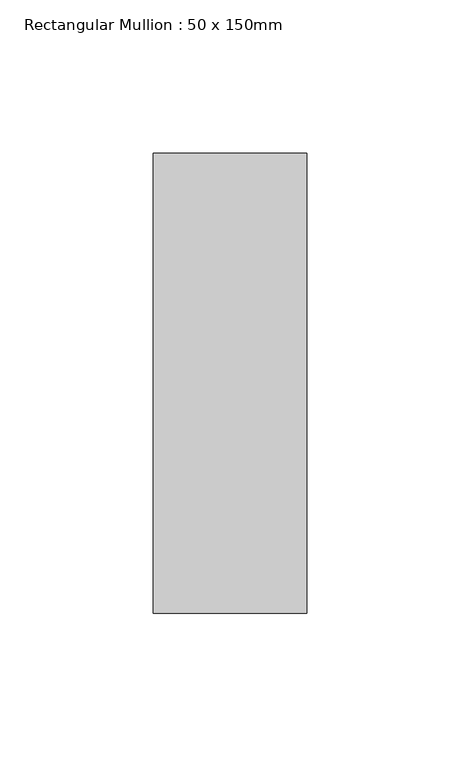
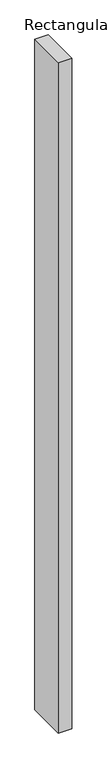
"""IFC4 building model written with IfcOpenShell, lengths in millimetres: member geometry, Rectangular Mullion : 50 x 150mm."""

import ifcopenshell
import ifcopenshell.guid

model = None  # the IFC model being written
_history = None  # IfcOwnerHistory: only IFC2X3 demands one
_inside = {}  # id of a spatial element -> (the spatial element, [elements in it])
_under = {}  # id of a project, library or spatial element -> (it, [spatial elements below it])
_declared = {}  # id of a project -> (the project, [libraries it declares])
_typed = {}  # id of a type object -> (the type object, [elements of that type])
_made_of = {}  # id of a material, layer set ... -> (it, [elements and type objects made of it])


def new_model(schema):
    """Start an empty IFC model of exactly this schema.

    Asked for "IFC4X3", IfcOpenShell would pick the latest addendum, in which some entities
    have other attributes; the version numbers below select the first issue.
    IFC2X3 requires an IfcOwnerHistory on every rooted entity: one is made here for all.
    """
    global model, _history
    if schema == "IFC4X3":
        model = ifcopenshell.file(schema_version=(4, 3, 0, 0))
    else:
        model = ifcopenshell.file(schema=schema)
    _inside.clear()
    _under.clear()
    _declared.clear()
    _typed.clear()
    _made_of.clear()
    _history = None
    if model.schema == "IFC2X3":
        org = make("IfcOrganization", Name="unknown")
        user = make(
            "IfcPersonAndOrganization",
            ThePerson=make("IfcPerson", FamilyName="unknown"),
            TheOrganization=org,
        )
        app = make(
            "IfcApplication",
            ApplicationDeveloper=org,
            Version="unknown",
            ApplicationFullName="unknown",
            ApplicationIdentifier="unknown",
        )
        _history = make(
            "IfcOwnerHistory",
            OwningUser=user,
            OwningApplication=app,
            ChangeAction="ADDED",
            CreationDate=0,
        )
    return model


def make(cls, **values):
    """One entity of the class cls with the attributes given. An attribute that is None is left unset."""
    return model.create_entity(
        cls, **{name: value for name, value in values.items() if value is not None}
    )


def rooted(cls, **values):
    """An entity with a GlobalId (a new one), such as an element, a storey or a relation."""
    return make(cls, GlobalId=ifcopenshell.guid.new(), OwnerHistory=_history, **values)


def si_unit(unit_type, name, prefix=None):
    """IfcSIUnit, for example si_unit("LENGTHUNIT", "METRE", prefix="MILLI")."""
    return make("IfcSIUnit", UnitType=unit_type, Prefix=prefix, Name=name)


def assignment(units):
    """IfcUnitAssignment: the units of a project."""
    return None if units is None else make("IfcUnitAssignment", Units=units)


def point(xyz):
    """IfcCartesianPoint."""
    return None if xyz is None else make("IfcCartesianPoint", Coordinates=xyz)


def direction(xyz):
    """IfcDirection."""
    return None if xyz is None else make("IfcDirection", DirectionRatios=xyz)


def frame(location, z_axis=None, x_axis=None):
    """IfcAxis2Placement3D, a coordinate frame: its origin and axes. An axis left out is left unset."""
    return make(
        "IfcAxis2Placement3D",
        Location=point(location),
        Axis=direction(z_axis),
        RefDirection=direction(x_axis),
    )


def origin():
    """The frame at (0, 0, 0) with its axes left unset."""
    return frame((0.0, 0.0, 0.0))


def place(relative_to, where):
    """IfcLocalPlacement: puts the frame where relative to a parent placement (None: the world)."""
    return make(
        "IfcLocalPlacement", PlacementRelTo=relative_to, RelativePlacement=where
    )


def context(
    kind, dimensions, precision=None, world=None, true_north=None, identifier=None
):
    """IfcGeometricRepresentationContext, for example the 3D "Model" context."""
    return make(
        "IfcGeometricRepresentationContext",
        ContextIdentifier=identifier,
        ContextType=kind,
        CoordinateSpaceDimension=dimensions,
        Precision=precision,
        WorldCoordinateSystem=world,
        TrueNorth=true_north,
    )


def project(units=None, contexts=None):
    """IfcProject with its units and contexts."""
    return rooted(
        "IfcProject",
        Name="project",
        RepresentationContexts=contexts,
        UnitsInContext=assignment(units),
    )


def spatial(cls, under=None, at=None, **own):
    """A site, building, storey or space (cls), placed at a placement, below another one or the project."""
    s = rooted(cls, ObjectPlacement=at, **own)
    if under is not None:
        _under.setdefault(under.id(), (under, []))[1].append(s)
    return s


def polyline(points):
    """IfcPolyline through the points."""
    return make("IfcPolyline", Points=[point(p) for p in points])


def outline(outer, holes=None, kind="AREA"):
    """IfcArbitraryClosedProfileDef: a profile drawn as a closed curve; with holes, ...WithVoids."""
    if holes is None:
        return make("IfcArbitraryClosedProfileDef", ProfileType=kind, OuterCurve=outer)
    return make(
        "IfcArbitraryProfileDefWithVoids",
        ProfileType=kind,
        OuterCurve=outer,
        InnerCurves=holes,
    )


def extrude(swept, where, along, depth):
    """IfcExtrudedAreaSolid: the profile swept, set in the frame where, extruded along a direction by depth."""
    return make(
        "IfcExtrudedAreaSolid",
        SweptArea=swept,
        Position=where,
        ExtrudedDirection=direction(along),
        Depth=depth,
    )


def shape(context_of_items, identifier, shape_type, items):
    """IfcShapeRepresentation: the items that make up one representation, for example the "Body"."""
    return make(
        "IfcShapeRepresentation",
        ContextOfItems=context_of_items,
        RepresentationIdentifier=identifier,
        RepresentationType=shape_type,
        Items=items,
    )


def source(mapping_origin, context_of_items, identifier, shape_type, items):
    """IfcRepresentationMap: a shape defined once, which mapped items show again and again."""
    return make(
        "IfcRepresentationMap",
        MappingOrigin=mapping_origin,
        MappedRepresentation=shape(context_of_items, identifier, shape_type, items),
    )


def transform(
    local_origin,
    x_axis=None,
    y_axis=None,
    z_axis=None,
    scale=None,
    scale2=None,
    scale3=None,
    uniform=True,
):
    """IfcCartesianTransformationOperator3D, or its non-uniform kind. x_axis, y_axis, z_axis: its Axis1, 2, 3."""
    if uniform:
        return make(
            "IfcCartesianTransformationOperator3D",
            Axis1=direction(x_axis),
            Axis2=direction(y_axis),
            LocalOrigin=point(local_origin),
            Scale=scale,
            Axis3=direction(z_axis),
        )
    return make(
        "IfcCartesianTransformationOperator3DnonUniform",
        Axis1=direction(x_axis),
        Axis2=direction(y_axis),
        LocalOrigin=point(local_origin),
        Scale=scale,
        Axis3=direction(z_axis),
        Scale2=scale2,
        Scale3=scale3,
    )


def mapped(mapping_source, mapping_target):
    """IfcMappedItem: shows the shape of a source again, moved by a transform."""
    return make(
        "IfcMappedItem", MappingSource=mapping_source, MappingTarget=mapping_target
    )


def made_of(thing, what):
    """Note that an element or type object is made of a material, layer set ...; save() writes the relation."""
    if what is not None:
        _made_of.setdefault(what.id(), (what, []))[1].append(thing)
    return thing


def element(
    cls,
    number,
    at=None,
    inside=None,
    cuts=None,
    type_object=None,
    material=None,
    context=None,
    identifier="Body",
    shape_type=None,
    held_by="IfcProductDefinitionShape",
    body=None,
    shapes=None,
    **own,
):
    """One element of the class cls, such as IfcWall. Its Tag is "e" and its number.

    at: its placement. inside: the storey or other place that contains it. cuts: it is an
    opening in that element (IfcRelVoidsElement). A single representation is given by context,
    identifier, shape_type and body (its items); several are given by shapes. held_by: the class
    of the entity that holds the representations. save() writes the other relations.
    """
    e = rooted(cls, Tag="e%d" % number, ObjectPlacement=at, **own)
    if body is not None:
        shapes = [shape(context, identifier, shape_type, body)]
    if shapes is not None:
        e.Representation = make(held_by, Representations=shapes)
    if inside is not None:
        _inside.setdefault(inside.id(), (inside, []))[1].append(e)
    if cuts is not None:
        rooted(
            "IfcRelVoidsElement", RelatingBuildingElement=cuts, RelatedOpeningElement=e
        )
    if type_object is not None:
        _typed.setdefault(type_object.id(), (type_object, []))[1].append(e)
    return made_of(e, material)


def aggregate(whole, parts):
    """IfcRelAggregates: a whole, such as a stair, and the parts it consists of."""
    return rooted("IfcRelAggregates", RelatingObject=whole, RelatedObjects=parts)


def save(model, path):
    """Write the relations noted so far, then the file.

    IfcRelAggregates (storeys below a building ...), IfcRelContainedInSpatialStructure (elements
    in a storey), IfcRelDefinesByType, IfcRelAssociatesMaterial and IfcRelDeclares: one each for
    every whole, place, type object, material and project.
    """
    for whole, parts in _under.values():
        aggregate(whole, parts)
    for where, things in _inside.values():
        rooted(
            "IfcRelContainedInSpatialStructure",
            RelatedElements=things,
            RelatingStructure=where,
        )
    for kind, things in _typed.values():
        rooted("IfcRelDefinesByType", RelatedObjects=things, RelatingType=kind)
    for what, things in _made_of.values():
        rooted("IfcRelAssociatesMaterial", RelatedObjects=things, RelatingMaterial=what)
    for by, libraries in _declared.values():
        rooted("IfcRelDeclares", RelatingContext=by, RelatedDefinitions=libraries)
    model.write(path)


def rectangular_mullion_50_x_150mm_2c7bb3b8(model_context):
    return source(origin(), model_context, "Body", "SweptSolid", [
        extrude(outline(polyline([(25.0, 75.0), (25.0, -75.0), (-25.0, -75.0), (-25.0, 75.0), (25.0, 75.0)])), frame((0.0, 0.0, -2625.0), z_axis=(0.0, 0.0, 1.0), x_axis=(1.0, 0.0, 0.0)), (0.0, 0.0, 1.0), 2625.0),
    ])


if __name__ == "__main__":
    model = new_model("IFC4")
    model_context = context("Model", 3, world=origin())
    ifc_project = project(units=[si_unit("LENGTHUNIT", "METRE", prefix="MILLI")], contexts=[model_context])
    site = spatial("IfcSite", under=ifc_project)
    building = spatial("IfcBuilding", under=site)
    placement = place(None, origin())
    rectangular_mullion_50_x_150mm_shape = rectangular_mullion_50_x_150mm_2c7bb3b8(model_context)
    element("IfcMember", 1, ObjectType="Rectangular Mullion : 50 x 150mm", at=placement, inside=building, context=model_context, shape_type="MappedRepresentation", body=[
        mapped(rectangular_mullion_50_x_150mm_shape, transform((0.0, 0.0, 0.0), x_axis=(1.0, 0.0, 0.0), y_axis=(0.0, 1.0, 0.0), z_axis=(0.0, 0.0, 1.0))),
    ])
    save(model, "model.ifc")
